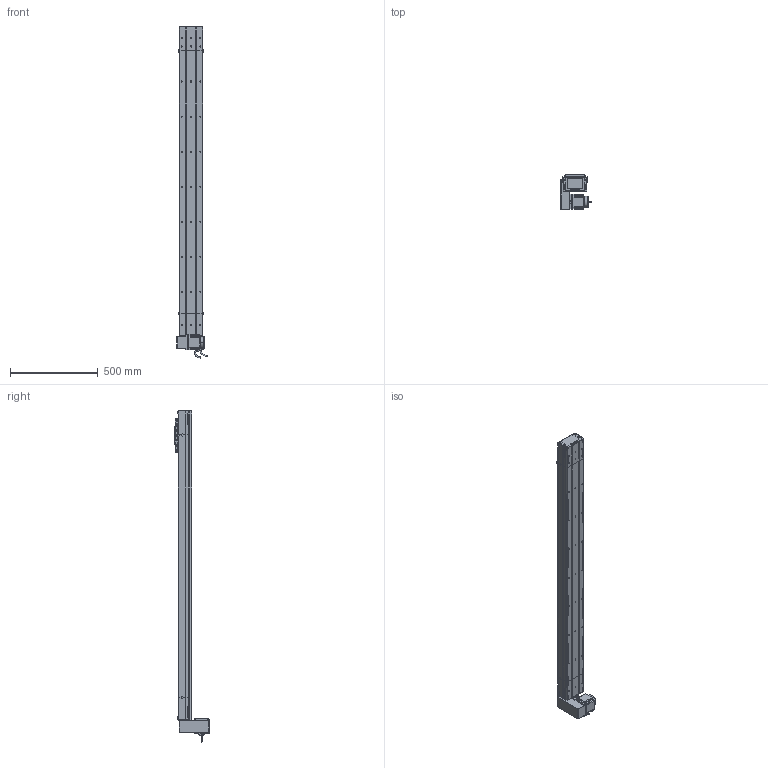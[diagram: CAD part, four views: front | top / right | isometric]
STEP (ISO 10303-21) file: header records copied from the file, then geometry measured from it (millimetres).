
FILE_DESCRIPTION (( 'STEP AP214' ), '1' );
FILE_NAME ('D14 CBH S1500 RU.STEP', '2010-06-30T06:53:15', ( 'Conseil Régional Haute-Normandie' ), ( 'Conseil Régional Haute-Normandie' ), 'SwSTEP 2.0', 'SolidWorks 2010', '' );
FILE_SCHEMA (( 'AUTOMOTIVE_DESIGN' ));
Length unit declared in the file: millimetre
Products named in the file (28): plaque fermeture Head D14 CBH; Conecteur_Default; Conecteur2_Default; GMB 90 70 310; Support moteur Head D14 CBH; codeur GMB 90 70 310; corps GMB 90 70 310; avant GMB 90 70 310; Course CBH S1500; D14 CBH S1500 RU; Tail CBH D14 A; couvercle CBH S1500; corps CBH S1500; couvercle tail CBH D14; plaque de bout tail CBH d14; corps tail  CBH d14 A; chariot supérieur D14; charriot inférieur D14; chariot D14; Head D14 CBH; Head D14 CBH RU; vis CHC M5; vis CHC M7; plaque de bout Head D14 CBH; corps Head D14 CBH; Vis CHC M8; plaque de maintient CBH D14; couvercle Head D14 CBH
Assembly tree (51 placements, depth 4):
  D14 CBH S1500 RU
    chariot D14
      vis CHC M5  x4
      vis CHC M7  x8
      chariot supérieur D14
      charriot inférieur D14
    Course CBH S1500
      corps CBH S1500
      couvercle CBH S1500
    Head D14 CBH RU
      GMB 90 70 310
        corps GMB 90 70 310
        Conecteur2_Default
        Conecteur_Default
        codeur GMB 90 70 310
        avant GMB 90 70 310
      plaque fermeture Head D14 CBH  x3
      Support moteur Head D14 CBH
      Head D14 CBH
        plaque de maintient CBH D14
        vis CHC M7  x4
        Vis CHC M8  x2
        corps Head D14 CBH
        plaque de bout Head D14 CBH
        couvercle Head D14 CBH
    Tail CBH D14 A
      vis CHC M7  x4
      Vis CHC M8  x2
      couvercle tail CBH D14
      plaque de bout tail CBH d14
      plaque de maintient CBH D14
      corps tail  CBH d14 A
Bounding box: 171.5 x 195.75 x 1895.95 mm (x, y, z)
Volume: 5797228.1 mm3; surface area: 1860634.1 mm2
Topology: 51 solids, 51 shells, 2480 faces, 6404 edges, 4208 vertices
Faces by surface type: plane 1371, bspline 538, cylinder 458, torus 61, cone 48, sphere 4
Entity records: 109885 total; most frequent: CARTESIAN_POINT 58270, ORIENTED_EDGE 11104, DIRECTION 8423, EDGE_CURVE 5552, LINE 3685, VECTOR 3685, VERTEX_POINT 3672, EDGE_LOOP 2376
